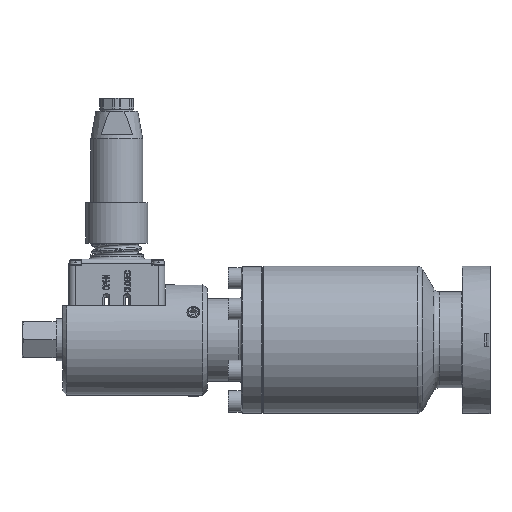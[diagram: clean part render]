
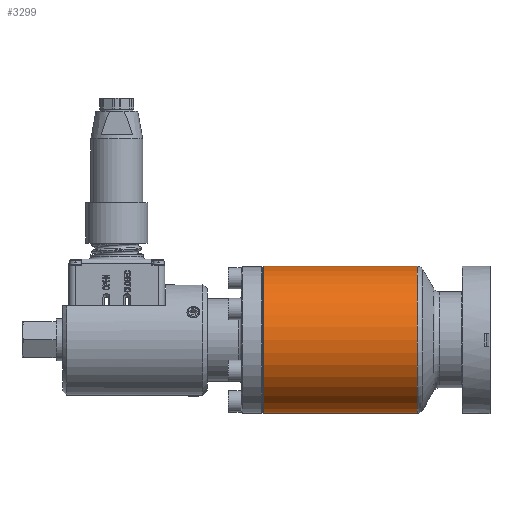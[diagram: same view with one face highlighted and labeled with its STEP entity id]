
A CAD part, left-side view. The second image highlights one B-rep face of the part: STEP entity #3299.
In plain terms, the highlighted cylindrical face has radius 34.55 mm (diameter 69.1 mm), a full revolution.
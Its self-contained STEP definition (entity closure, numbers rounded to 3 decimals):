
#3299=ADVANCED_FACE('',(#4465,#4466,#4467),#3745,.T.);
#3745=CYLINDRICAL_SURFACE('',#10303,34.55);
#3965=CIRCLE('',#10297,34.55);
#3969=CIRCLE('',#10302,34.55);
#4465=FACE_BOUND('',#5114,.T.);
#4466=FACE_BOUND('',#5115,.T.);
#4467=FACE_BOUND('',#5116,.T.);
#5114=EDGE_LOOP('',(#6174));
#5115=EDGE_LOOP('',(#6175));
#5116=EDGE_LOOP('',(#6176));
#6174=ORIENTED_EDGE('',*,*,#8991,.T.);
#6175=ORIENTED_EDGE('',*,*,#8987,.F.);
#6176=ORIENTED_EDGE('',*,*,#8992,.T.);
#8083=VERTEX_POINT('',#15026);
#8087=VERTEX_POINT('',#15035);
#8088=VERTEX_POINT('',#15070);
#8987=EDGE_CURVE('',#8083,#8083,#3965,.T.);
#8991=EDGE_CURVE('',#8087,#8087,#3969,.T.);
#8992=EDGE_CURVE('',#8088,#8088,#9883,.T.);
#9883=B_SPLINE_CURVE_WITH_KNOTS('',3,(#15036,#15037,#15038,#15039,#15040,
#15041,#15042,#15043,#15044,#15045,#15046,#15047,#15048,#15049,#15050,#15051,
#15052,#15053,#15054,#15055,#15056,#15057,#15058,#15059,#15060,#15061,#15062,
#15063,#15064,#15065,#15066,#15067,#15068,#15069),.UNSPECIFIED.,.T.,.F.,
(2,2,2,2,2,2,2,2,2,2,2,2,2,2,2,2,2,2,2),(-0.062,0.,0.063,0.125,
0.188,0.25,0.313,0.375,0.438,0.5,0.563,0.625,0.688,0.75,0.813,0.875,
0.938,1.,1.063),.UNSPECIFIED.);
#10297=AXIS2_PLACEMENT_3D('',#15025,#11514,#11515);
#10302=AXIS2_PLACEMENT_3D('',#15034,#11524,#11525);
#10303=AXIS2_PLACEMENT_3D('',#15071,#11526,#11527);
#11514=DIRECTION('',(-1.,0.,0.));
#11515=DIRECTION('',(0.,-1.,0.));
#11524=DIRECTION('',(-1.,0.,0.));
#11525=DIRECTION('',(0.,-1.,0.));
#11526=DIRECTION('',(-1.,0.,0.));
#11527=DIRECTION('',(0.,-1.,0.));
#15025=CARTESIAN_POINT('',(-43.5,0.,0.));
#15026=CARTESIAN_POINT('',(-43.5,-34.55,0.));
#15034=CARTESIAN_POINT('',(28.711,0.,0.));
#15035=CARTESIAN_POINT('',(28.711,-34.55,0.));
#15036=CARTESIAN_POINT('',(-3.084,26.155,-22.575));
#15037=CARTESIAN_POINT('',(3.084,26.155,-22.575));
#15038=CARTESIAN_POINT('',(6.073,26.729,-21.938));
#15039=CARTESIAN_POINT('',(11.458,28.44,-19.669));
#15040=CARTESIAN_POINT('',(13.869,29.553,-18.04));
#15041=CARTESIAN_POINT('',(17.923,31.659,-14.02));
#15042=CARTESIAN_POINT('',(19.586,32.663,-11.606));
#15043=CARTESIAN_POINT('',(21.91,34.107,-6.186));
#15044=CARTESIAN_POINT('',(22.56,34.54,-3.177));
#15045=CARTESIAN_POINT('',(22.59,34.56,2.954));
#15046=CARTESIAN_POINT('',(21.964,34.142,6.));
#15047=CARTESIAN_POINT('',(19.669,32.713,11.47));
#15048=CARTESIAN_POINT('',(18.006,31.707,13.914));
#15049=CARTESIAN_POINT('',(13.97,29.602,17.963));
#15050=CARTESIAN_POINT('',(11.576,28.489,19.599));
#15051=CARTESIAN_POINT('',(6.213,26.762,21.898));
#15052=CARTESIAN_POINT('',(3.174,26.168,22.56));
#15053=CARTESIAN_POINT('',(-2.953,26.142,22.59));
#15054=CARTESIAN_POINT('',(-5.979,26.706,21.966));
#15055=CARTESIAN_POINT('',(-11.4,28.415,19.705));
#15056=CARTESIAN_POINT('',(-13.812,29.525,18.089));
#15057=CARTESIAN_POINT('',(-17.917,31.655,14.033));
#15058=CARTESIAN_POINT('',(-19.569,32.652,11.643));
#15059=CARTESIAN_POINT('',(-21.92,34.113,6.168));
#15060=CARTESIAN_POINT('',(-22.564,34.543,3.121));
#15061=CARTESIAN_POINT('',(-22.586,34.557,-2.958));
#15062=CARTESIAN_POINT('',(-21.963,34.141,-6.013));
#15063=CARTESIAN_POINT('',(-19.646,32.699,-11.514));
#15064=CARTESIAN_POINT('',(-17.976,31.689,-13.955));
#15065=CARTESIAN_POINT('',(-13.911,29.573,-18.01));
#15066=CARTESIAN_POINT('',(-11.501,28.458,-19.645));
#15067=CARTESIAN_POINT('',(-6.116,26.739,-21.927));
#15068=CARTESIAN_POINT('',(-3.084,26.155,-22.575));
#15069=CARTESIAN_POINT('',(3.084,26.155,-22.575));
#15070=CARTESIAN_POINT('',(0.,26.155,-22.575));
#15071=CARTESIAN_POINT('',(-40.844,0.,0.));
